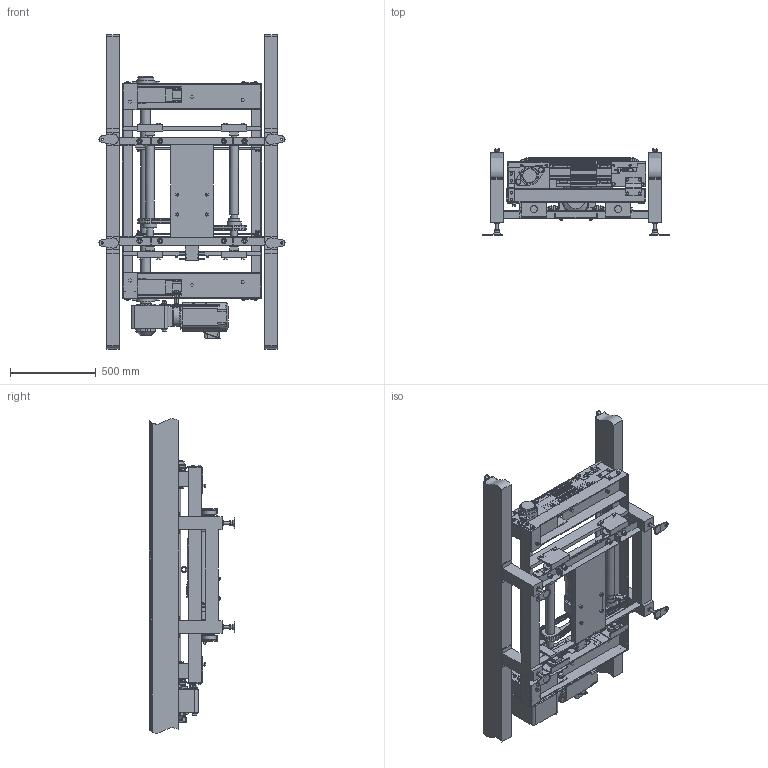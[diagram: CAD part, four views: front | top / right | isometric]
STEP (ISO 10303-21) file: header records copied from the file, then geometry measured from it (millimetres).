
FILE_DESCRIPTION (( 'STEP AP214' ), '1' );
FILE_NAME ('MHC-LTR-R-CAM.STEP', '2023-04-20T06:52:22', ( '' ), ( '' ), 'SwSTEP 2.0', 'SolidWorks 2017', '' );
FILE_SCHEMA (( 'AUTOMOTIVE_DESIGN' ));
Length unit declared in the file: millimetre
Products named in the file (1): MHC-LTR-R-CAM
Bounding box: 1084 x 500.1 x 1832.41 mm (x, y, z)
Volume: 118412059.1 mm3; surface area: 10417587.1 mm2
Topology: 50 solids, 66 shells, 4788 faces, 11584 edges, 7494 vertices
Faces by surface type: plane 4014, cylinder 720, cone 32, bspline 22
Full cylindrical faces by diameter (mm): 3 x2, 3.2 x2, 4 x10, 5 x7, 6.6 x1, 6.8 x8, 7 x2, 7.5 x2, 8 x16, 8.5 x14, 9 x8, 9.4 x4, 10 x20, 11 x4, 12 x10, 12.2 x38, 12.5 x22, 13 x4, 14.2 x4, 15.4 x37, 16 x30, 16.2 x4, 17 x32, 17.5 x4, 18 x4, 18.4 x44, 21 x36, 21.5 x4, 22 x2, 24 x9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
Entity records: 136740 total; most frequent: CARTESIAN_POINT 26044, DIRECTION 22147, ORIENTED_EDGE 21768, EDGE_CURVE 10884, VECTOR 8663, LINE 8663, VERTEX_POINT 7316, AXIS2_PLACEMENT_3D 6742
